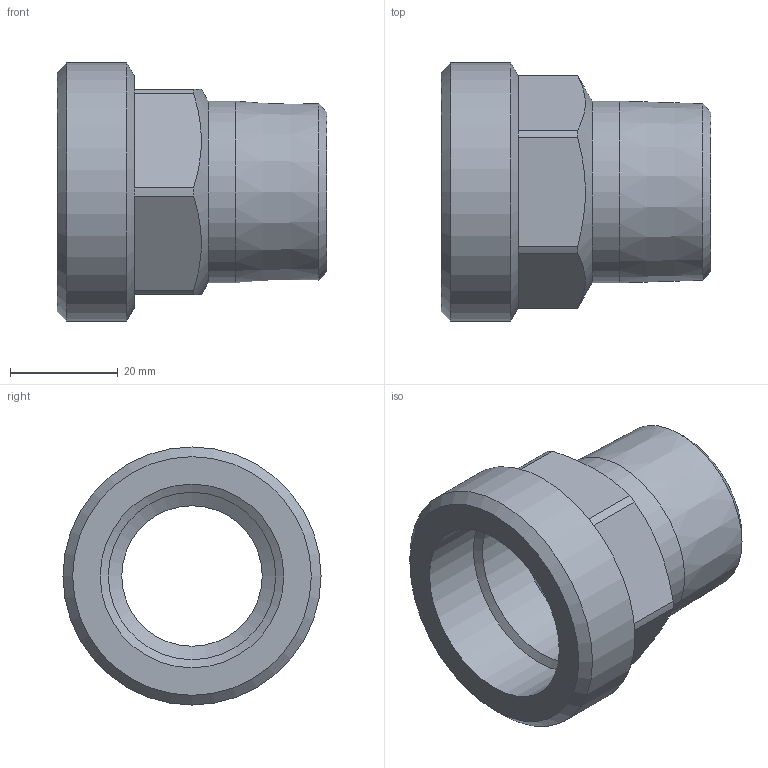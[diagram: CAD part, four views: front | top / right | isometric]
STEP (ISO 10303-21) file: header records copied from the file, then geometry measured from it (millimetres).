
FILE_DESCRIPTION((''),'2;1');
FILE_NAME('\\Lg50001\Groups\SANHA Legnica\Engineering\Public\Pajchrowski\projekty\8000 models\4376g\4376g STEP\14376_1-112(1).stp','2009-08-28T10:19:40',('pajchrowski'),(''),'Autodesk Inventor 2009','Autodesk Inventor 2009','');
FILE_SCHEMA(('AUTOMOTIVE_DESIGN { 1 0 10303 214 1 1 1 1 }'));
Length unit declared in the file: millimetre
Products named in the file (1): 14376_1-112(1)
Bounding box: 50 x 47.8 x 47.8 mm (x, y, z)
Volume: 27366.3 mm3; surface area: 12516.3 mm2
Topology: 1 solids, 1 shells, 32 faces, 69 edges, 39 vertices
Faces by surface type: plane 14, cylinder 11, cone 7
Full cylindrical faces by diameter (mm): 26 x1, 31 x1, 33.662 x1, 34 x1, 47.803 x1
Entity records: 802 total; most frequent: DIRECTION 146, CARTESIAN_POINT 137, ORIENTED_EDGE 110, AXIS2_PLACEMENT_3D 64, EDGE_CURVE 55, EDGE_LOOP 46, VERTEX_POINT 37, FACE_OUTER_BOUND 32
